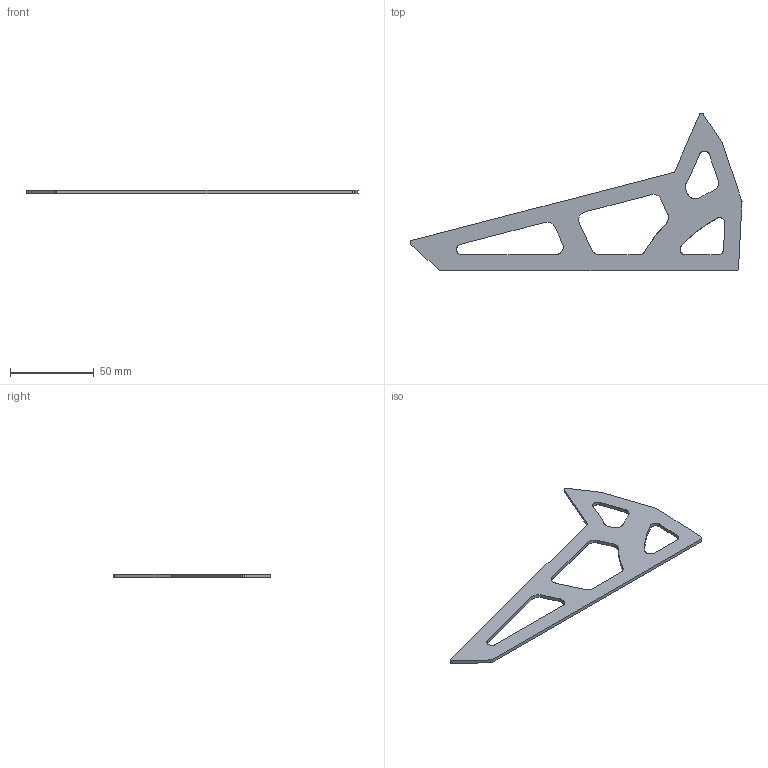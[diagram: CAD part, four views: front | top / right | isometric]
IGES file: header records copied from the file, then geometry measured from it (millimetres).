
Start section: SolidWorks IGES file using analytic representation for surfaces
Global section: file name: C:\Users\Jeremy\Desktop\Trex-550e Tail Fin.IGS; native system: SolidWorks 2010; preprocessor: SolidWorks 2010; author: Jeremy; date: 110709.114800; units: inch
Bounding box: 197.69 x 93.88 x 2 mm (x, y, z)
Surface area: 13690.9 mm2 (no closed solid volume)
Topology: 0 solids, 0 shells, 53 faces, 566 edges, 566 vertices
Faces by surface type: revolution 32, bspline 21
